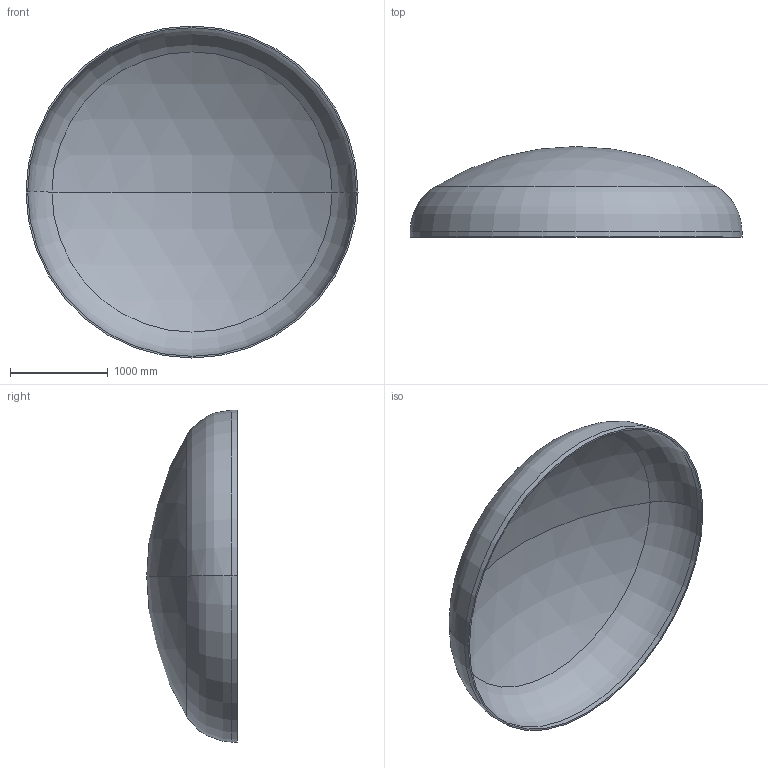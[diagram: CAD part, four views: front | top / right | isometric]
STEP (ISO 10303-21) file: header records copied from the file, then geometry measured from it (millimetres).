
FILE_DESCRIPTION (( 'STEP AP203' ), '1' );
FILE_NAME ('DIN 28013 Korbbogenform_-_Boden DIN 28013 - 3400 x 55 - I - s=17.step', '2016-07-01T19:14:17', ( '' ), ( '' ), 'SwSTEP 2.0', 'SolidWorks 2013', '' );
FILE_SCHEMA (( 'CONFIG_CONTROL_DESIGN' ));
Length unit declared in the file: millimetre
Products named in the file (1): DIN 28013 Korbbogenform_-_Boden DIN 28013 - 3400 x 55 - I - s=17
Bounding box: 3400 x 927.31 x 3400 mm (x, y, z)
Volume: 222414549.4 mm3; surface area: 26347688.7 mm2
Topology: 1 solids, 1 shells, 13 faces, 24 edges, 14 vertices
Faces by surface type: torus 4, cylinder 4, sphere 4, plane 1
Entity records: 407 total; most frequent: DIRECTION 72, CARTESIAN_POINT 52, ORIENTED_EDGE 48, AXIS2_PLACEMENT_3D 34, EDGE_CURVE 24, CIRCLE 20, EDGE_LOOP 14, VERTEX_POINT 14
